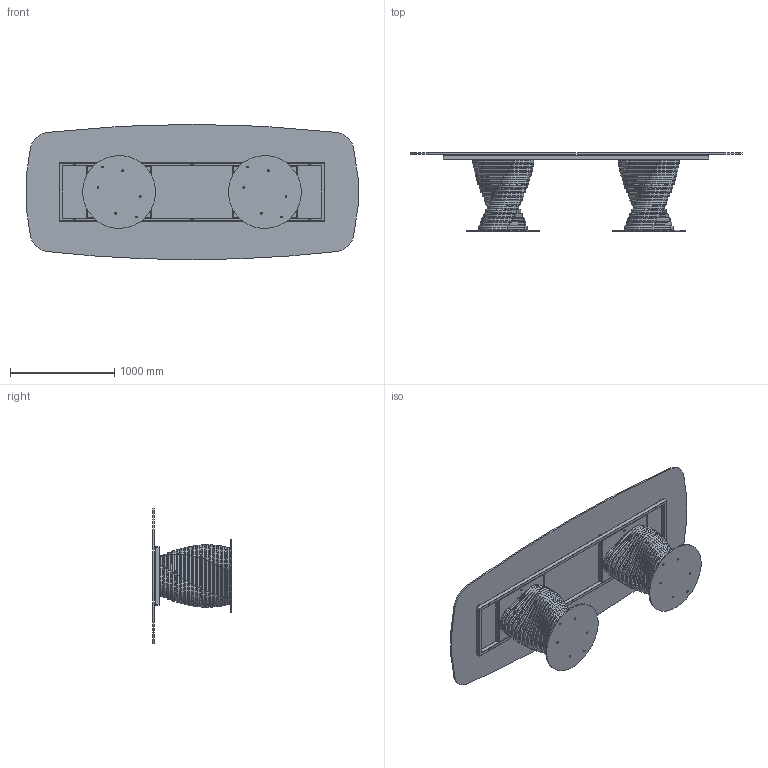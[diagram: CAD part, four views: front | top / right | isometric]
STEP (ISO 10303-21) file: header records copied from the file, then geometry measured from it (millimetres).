
FILE_DESCRIPTION (( 'STEP AP203' ), '1' );
FILE_NAME ('RO46G.STEP', '2024-08-07T13:21:32', ( '' ), ( '' ), 'SwSTEP 2.0', 'SolidWorks 2022', '' );
FILE_SCHEMA (( 'CONFIG_CONTROL_DESIGN' ));
Length unit declared in the file: millimetre
Products named in the file (15): rondella M8_8X24; 434070-00-PIEDINO TPV GOMMA NERO D. 30x8max18_filo estetico; ROBX00000SUP-00-Anello rotolo SUPERIORE_Default<A macchina>; ROBX00000-00-ROTOLO BASE 17 ANELLI; M8xXXmm_M8x20mm; ROB200000-00-PIASTRA BASE_Ø70cm; ROBX00000INF-00-Anello rotolo INFERIORE_Default<A macchina>; RO46G; C4XCRXX-00-Piani Sagomati in Cristallo_3200 x 1300; COLLO TELAIO UNIVERSALE TTAV03 CON FERRAMENTA_MTG TOP CRISTALLO VERNICIATO-CERAMICA; TTAV03_02-06-VASSOIO IRRIGIDIMENTO TELAIO UNIVERSALE RETTANGOLARE; TTAV03-06-TELAIO UNIVERSALE X TAVOLI 300-340cm; M8xXXmm_hex_M8X20mm; ROBX00000MED-00-Anello rotolo MEDIO_Default<A macchina>; TTAV03_01-06-RING TUBO TELAIO UNIVERSALE X TAVOLI 300-340cm
Assembly tree (63 placements, depth 4):
  RO46G
    ROB200000-00-PIASTRA BASE_Ø70cm  x2
    COLLO TELAIO UNIVERSALE TTAV03 CON FERRAMENTA_MTG TOP CRISTALLO VERNICIATO-CERAMICA
      TTAV03-06-TELAIO UNIVERSALE X TAVOLI 300-340cm
        TTAV03_01-06-RING TUBO TELAIO UNIVERSALE X TAVOLI 300-340cm
        TTAV03_02-06-VASSOIO IRRIGIDIMENTO TELAIO UNIVERSALE RETTANGOLARE  x2
      434070-00-PIEDINO TPV GOMMA NERO D. 30x8max18_filo estetico  x8
    ROBX00000-00-ROTOLO BASE 17 ANELLI  x2
      ROBX00000INF-00-Anello rotolo INFERIORE_Default<A macchina>
      ROBX00000MED-00-Anello rotolo MEDIO_Default<A macchina>
      ROBX00000SUP-00-Anello rotolo SUPERIORE_Default<A macchina>
    M8xXXmm_hex_M8X20mm  x12
    rondella M8_8X24  x8
    M8xXXmm_M8x20mm  x8
    C4XCRXX-00-Piani Sagomati in Cristallo_3200 x 1300
Bounding box: 3189.57 x 757 x 1300 mm (x, y, z)
Volume: 81695800.1 mm3; surface area: 22414767 mm2
Topology: 186 solids, 186 shells, 2831 faces, 6655 edges, 4150 vertices
Faces by surface type: plane 1166, cylinder 1001, torus 424, cone 232, sphere 8
Entity records: 21177 total; most frequent: CARTESIAN_POINT 4684, DIRECTION 2996, ORIENTED_EDGE 2702, EDGE_CURVE 1351, AXIS2_PLACEMENT_3D 1133, VERTEX_POINT 845, LINE 730, VECTOR 730
